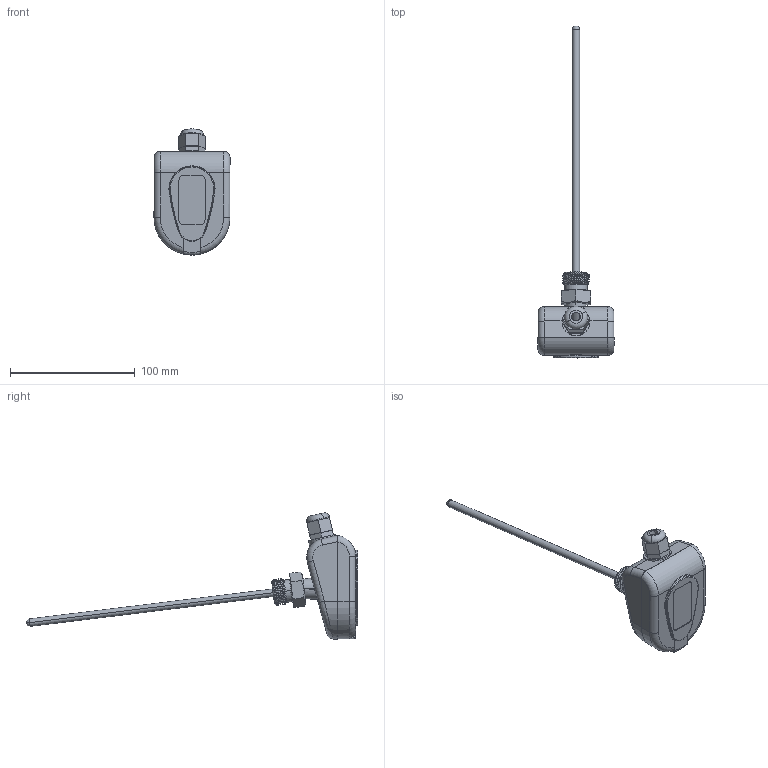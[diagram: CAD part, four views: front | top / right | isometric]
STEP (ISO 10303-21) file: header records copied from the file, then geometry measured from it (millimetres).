
FILE_DESCRIPTION (( 'STEP AP203' ), '1' );
FILE_NAME ('Ñáîðêà ESTF-200.STEP', '2019-10-08T11:31:13', ( '' ), ( '' ), 'SwSTEP 2.0', 'SolidWorks 2016', '' );
FILE_SCHEMA (( 'CONFIG_CONTROL_DESIGN' ));
Length unit declared in the file: millimetre
Products named in the file (12): 櫻蠉錪8^栖闉罻; ïëàòà, êðóãëàÿ; Êîðïóñ_„«ï âàã¡®ª; ESTF-PT1000-200-PVC-2; Êðûøêà; Ãåðìîââîä; 秮鶋罻; 栖闉罻 ESTF-200; Êëåìíèê; 砎鍒鍱 1; 砎鍒鍱 2; 櫻蠉錪7^栖闉罻
Assembly tree (11 placements, depth 2):
  栖闉罻 ESTF-200
    Êîðïóñ_„«ï âàã¡®ª
    Êðûøêà
    秮鶋罻
    Êëåìíèê
    砎鍒鍱 1
    砎鍒鍱 2
    櫻蠉錪7^栖闉罻
    櫻蠉錪8^栖闉罻
    ïëàòà, êðóãëàÿ
    ESTF-PT1000-200-PVC-2
    Ãåðìîââîä
Bounding box: 61.05 x 266.65 x 101.33 mm (x, y, z)
Volume: 70339.6 mm3; surface area: 63781.8 mm2
Topology: 11 solids, 11 shells, 497 faces, 1242 edges, 806 vertices
Faces by surface type: plane 249, cylinder 172, torus 32, bspline 26, cone 16, sphere 2
Entity records: 23095 total; most frequent: CARTESIAN_POINT 10118, ORIENTED_EDGE 2476, DIRECTION 2384, EDGE_CURVE 1238, AXIS2_PLACEMENT_3D 866, VERTEX_POINT 804, VECTOR 652, LINE 652
